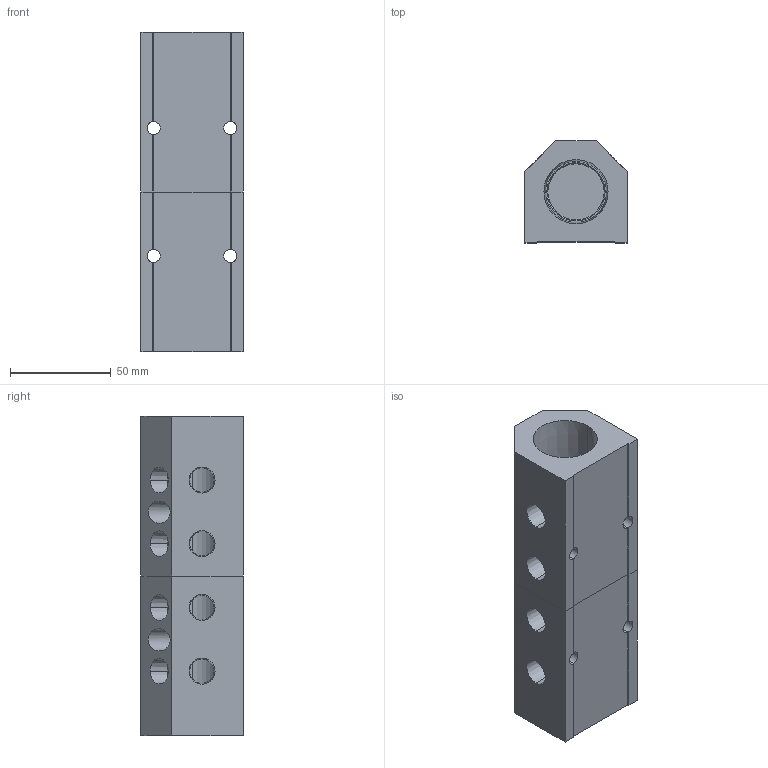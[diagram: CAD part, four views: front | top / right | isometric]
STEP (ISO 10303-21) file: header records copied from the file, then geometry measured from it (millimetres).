
FILE_DESCRIPTION (( 'STEP AP214' ), '1' );
FILE_NAME ('ALM4AB-N4N16-159RB.STEP', '2023-11-02T06:09:02', ( '' ), ( '' ), 'SwSTEP 2.0', 'SolidWorks 2020', '' );
FILE_SCHEMA (( 'AUTOMOTIVE_DESIGN' ));
Length unit declared in the file: millimetre
Products named in the file (1): ALM4AB-N4N16-159RB
Bounding box: 50.8 x 50.8 x 159 mm (x, y, z)
Volume: 246339.1 mm3; surface area: 58234.5 mm2
Topology: 2 solids, 2 shells, 349 faces, 914 edges, 604 vertices
Faces by surface type: plane 248, bspline 53, cone 24, cylinder 24
Entity records: 17845 total; most frequent: CARTESIAN_POINT 6377, ORIENTED_EDGE 1828, DIRECTION 1426, EDGE_CURVE 914, LINE 704, VECTOR 704, VERTEX_POINT 604, EDGE_LOOP 408
